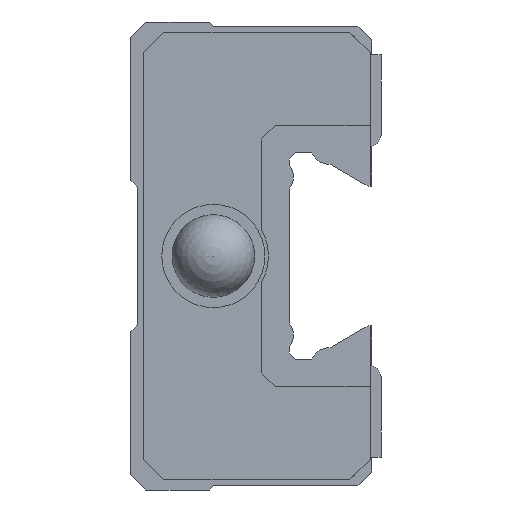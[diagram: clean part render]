
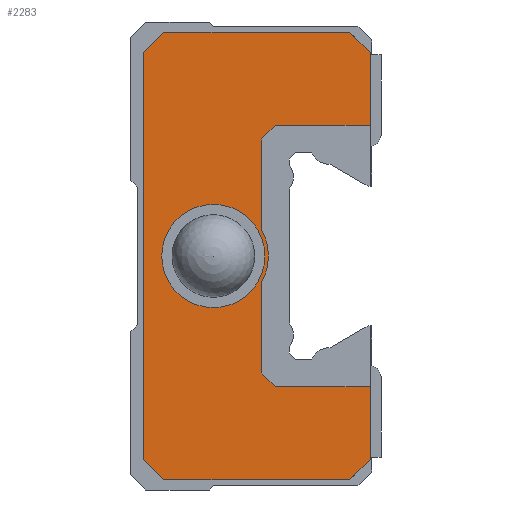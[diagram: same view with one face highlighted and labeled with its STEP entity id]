
A CAD part, left-side view. The second image highlights one B-rep face of the part: STEP entity #2283.
In plain terms, the highlighted planar face has unit normal (-1, 0, 0).
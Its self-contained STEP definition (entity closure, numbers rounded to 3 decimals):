
#40=LINE('',#3184,#310);
#86=LINE('',#3277,#356);
#101=LINE('',#3308,#371);
#108=LINE('',#3322,#378);
#112=LINE('',#3329,#382);
#120=LINE('',#3346,#390);
#123=LINE('',#3351,#393);
#131=LINE('',#3363,#401);
#162=LINE('',#3441,#432);
#237=LINE('',#3629,#507);
#242=LINE('',#3643,#512);
#243=LINE('',#3645,#513);
#244=LINE('',#3647,#514);
#245=LINE('',#3648,#515);
#246=LINE('',#3650,#516);
#310=VECTOR('',#2571,1000.);
#356=VECTOR('',#2635,1000.);
#371=VECTOR('',#2652,1000.);
#378=VECTOR('',#2663,1000.);
#382=VECTOR('',#2669,1000.);
#390=VECTOR('',#2679,1000.);
#393=VECTOR('',#2684,1000.);
#401=VECTOR('',#2700,1000.);
#432=VECTOR('',#2763,1000.);
#507=VECTOR('',#2942,1000.);
#512=VECTOR('',#2957,1000.);
#513=VECTOR('',#2958,1000.);
#514=VECTOR('',#2959,1000.);
#515=VECTOR('',#2960,1000.);
#516=VECTOR('',#2961,1000.);
#642=PLANE('',#2461);
#1097=ORIENTED_EDGE('',*,*,#1344,.T.);
#1098=ORIENTED_EDGE('',*,*,#1568,.F.);
#1099=ORIENTED_EDGE('',*,*,#1569,.T.);
#1100=ORIENTED_EDGE('',*,*,#1570,.T.);
#1101=ORIENTED_EDGE('',*,*,#1571,.T.);
#1102=ORIENTED_EDGE('',*,*,#1474,.F.);
#1103=ORIENTED_EDGE('',*,*,#1416,.F.);
#1104=ORIENTED_EDGE('',*,*,#1412,.F.);
#1105=ORIENTED_EDGE('',*,*,#1405,.F.);
#1106=ORIENTED_EDGE('',*,*,#1435,.F.);
#1107=ORIENTED_EDGE('',*,*,#1390,.F.);
#1108=ORIENTED_EDGE('',*,*,#1427,.F.);
#1109=ORIENTED_EDGE('',*,*,#1424,.F.);
#1110=ORIENTED_EDGE('',*,*,#1561,.F.);
#1111=ORIENTED_EDGE('',*,*,#1572,.T.);
#1112=ORIENTED_EDGE('',*,*,#1573,.T.);
#1113=ORIENTED_EDGE('',*,*,#1574,.T.);
#1344=EDGE_CURVE('',#1661,#1660,#40,.T.);
#1390=EDGE_CURVE('',#1698,#1699,#86,.T.);
#1405=EDGE_CURVE('',#1713,#1714,#101,.T.);
#1412=EDGE_CURVE('',#1714,#1719,#108,.T.);
#1416=EDGE_CURVE('',#1719,#1721,#112,.T.);
#1424=EDGE_CURVE('',#1728,#1729,#120,.T.);
#1427=EDGE_CURVE('',#1729,#1698,#123,.T.);
#1435=EDGE_CURVE('',#1699,#1713,#131,.T.);
#1474=EDGE_CURVE('',#1721,#1761,#162,.T.);
#1561=EDGE_CURVE('',#1821,#1728,#237,.T.);
#1568=EDGE_CURVE('',#1825,#1660,#1894,.T.);
#1569=EDGE_CURVE('',#1825,#1826,#242,.T.);
#1570=EDGE_CURVE('',#1826,#1827,#243,.T.);
#1571=EDGE_CURVE('',#1827,#1761,#244,.T.);
#1572=EDGE_CURVE('',#1821,#1828,#245,.T.);
#1573=EDGE_CURVE('',#1828,#1661,#246,.T.);
#1574=EDGE_CURVE('',#1829,#1829,#1895,.T.);
#1660=VERTEX_POINT('',#3183);
#1661=VERTEX_POINT('',#3185);
#1698=VERTEX_POINT('',#3276);
#1699=VERTEX_POINT('',#3278);
#1713=VERTEX_POINT('',#3307);
#1714=VERTEX_POINT('',#3309);
#1719=VERTEX_POINT('',#3323);
#1721=VERTEX_POINT('',#3330);
#1728=VERTEX_POINT('',#3345);
#1729=VERTEX_POINT('',#3347);
#1761=VERTEX_POINT('',#3442);
#1821=VERTEX_POINT('',#3628);
#1825=VERTEX_POINT('',#3642);
#1826=VERTEX_POINT('',#3644);
#1827=VERTEX_POINT('',#3646);
#1828=VERTEX_POINT('',#3649);
#1829=VERTEX_POINT('',#3652);
#1894=CIRCLE('',#2462,4.);
#1895=CIRCLE('',#2463,2.);
#2008=EDGE_LOOP('',(#1097,#1098,#1099,#1100,#1101,#1102,#1103,#1104,#1105,
#1106,#1107,#1108,#1109,#1110,#1111,#1112));
#2009=EDGE_LOOP('',(#1113));
#2156=FACE_BOUND('',#2008,.T.);
#2157=FACE_BOUND('',#2009,.T.);
#2283=ADVANCED_FACE('',(#2156,#2157),#642,.F.);
#2461=AXIS2_PLACEMENT_3D('',#3640,#2953,#2954);
#2462=AXIS2_PLACEMENT_3D('',#3641,#2955,#2956);
#2463=AXIS2_PLACEMENT_3D('',#3651,#2962,#2963);
#2571=DIRECTION('',(0.,0.,1.));
#2635=DIRECTION('',(0.,0.707,0.707));
#2652=DIRECTION('',(0.,-0.707,0.707));
#2663=DIRECTION('',(0.,-1.,0.));
#2669=DIRECTION('',(0.,-0.707,-0.707));
#2679=DIRECTION('',(0.,0.707,-0.707));
#2684=DIRECTION('',(0.,1.,0.));
#2700=DIRECTION('',(0.,0.,1.));
#2763=DIRECTION('',(0.,0.,-1.));
#2942=DIRECTION('',(0.,0.,-1.));
#2953=DIRECTION('',(1.,0.,0.));
#2954=DIRECTION('',(0.,0.,-1.));
#2955=DIRECTION('',(1.,0.,0.));
#2956=DIRECTION('',(0.,0.,-1.));
#2957=DIRECTION('',(0.,0.,1.));
#2958=DIRECTION('',(0.,-0.707,0.707));
#2959=DIRECTION('',(0.,-1.,0.));
#2960=DIRECTION('',(0.,1.,0.));
#2961=DIRECTION('',(0.,0.707,0.707));
#2962=DIRECTION('',(1.,0.,0.));
#2963=DIRECTION('',(0.,0.,-1.));
#3183=CARTESIAN_POINT('',(-27.,10.,-1.936));
#3184=CARTESIAN_POINT('',(-27.,10.,-8.5));
#3185=CARTESIAN_POINT('',(-27.,10.,-8.5));
#3276=CARTESIAN_POINT('',(-27.,17.099,-16.25));
#3277=CARTESIAN_POINT('',(-27.,17.099,-16.25));
#3278=CARTESIAN_POINT('',(-27.,18.599,-14.75));
#3307=CARTESIAN_POINT('',(-27.,18.599,14.75));
#3308=CARTESIAN_POINT('',(-27.,18.599,14.75));
#3309=CARTESIAN_POINT('',(-27.,17.099,16.25));
#3322=CARTESIAN_POINT('',(-27.,17.099,16.25));
#3323=CARTESIAN_POINT('',(-27.,3.599,16.25));
#3329=CARTESIAN_POINT('',(-27.,3.599,16.25));
#3330=CARTESIAN_POINT('',(-27.,2.099,14.75));
#3345=CARTESIAN_POINT('',(-27.,2.099,-14.75));
#3346=CARTESIAN_POINT('',(-27.,2.099,-14.75));
#3347=CARTESIAN_POINT('',(-27.,3.599,-16.25));
#3351=CARTESIAN_POINT('',(-27.,3.599,-16.25));
#3363=CARTESIAN_POINT('',(-27.,18.599,-14.75));
#3441=CARTESIAN_POINT('',(-27.,2.099,14.75));
#3442=CARTESIAN_POINT('',(-27.,2.099,9.5));
#3628=CARTESIAN_POINT('',(-27.,2.099,-9.5));
#3629=CARTESIAN_POINT('',(-27.,2.099,14.75));
#3640=CARTESIAN_POINT('',(-27.,0.,0.));
#3641=CARTESIAN_POINT('',(-27.,13.5,0.));
#3642=CARTESIAN_POINT('',(-27.,10.,1.936));
#3643=CARTESIAN_POINT('',(-27.,10.,-8.5));
#3644=CARTESIAN_POINT('',(-27.,10.,8.5));
#3645=CARTESIAN_POINT('',(-27.,10.,8.5));
#3646=CARTESIAN_POINT('',(-27.,9.,9.5));
#3647=CARTESIAN_POINT('',(-27.,9.,9.5));
#3648=CARTESIAN_POINT('',(-27.,2.099,-9.5));
#3649=CARTESIAN_POINT('',(-27.,9.,-9.5));
#3650=CARTESIAN_POINT('',(-27.,9.,-9.5));
#3651=CARTESIAN_POINT('',(-27.,13.5,0.));
#3652=CARTESIAN_POINT('',(-27.,13.5,-2.));
